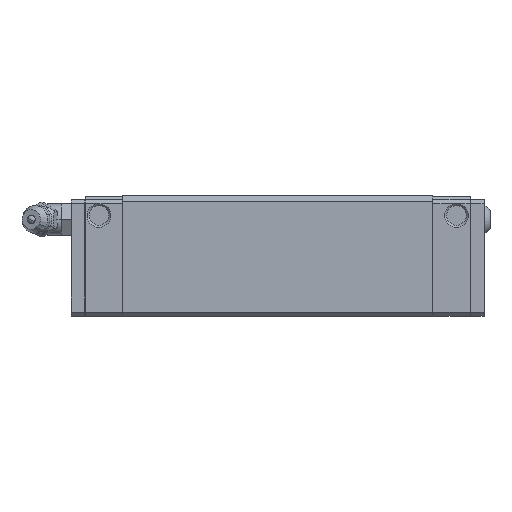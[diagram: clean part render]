
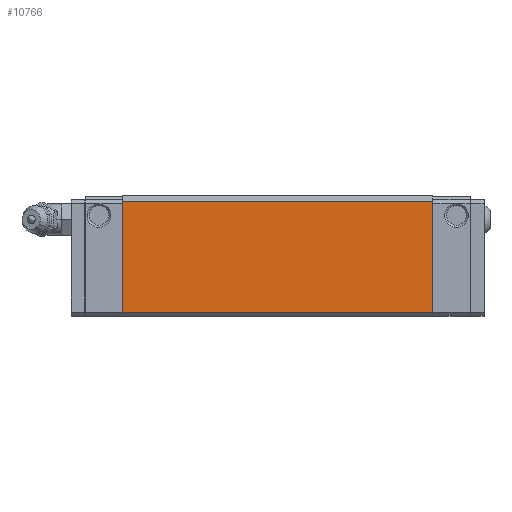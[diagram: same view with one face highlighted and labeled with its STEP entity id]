
A CAD part, top view. The second image highlights one B-rep face of the part: STEP entity #10766.
In plain terms, the highlighted planar face has unit normal (0, 0, 1).
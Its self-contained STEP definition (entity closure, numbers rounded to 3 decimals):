
#232 = EDGE_CURVE ( 'NONE', #8744, #2513, #13216, .T. ) ;
#569 = ORIENTED_EDGE ( 'NONE', *, *, #10243, .F. ) ;
#1481 = VECTOR ( 'NONE', #7482, 1000. ) ;
#1610 = CARTESIAN_POINT ( 'NONE',  ( 39.3, 12.5, 24. ) ) ;
#1717 = CARTESIAN_POINT ( 'NONE',  ( 39.3, -15.7, 24. ) ) ;
#2513 = VERTEX_POINT ( 'NONE', #1717 ) ;
#2717 = DIRECTION ( 'NONE',  ( 0., -1., 0. ) ) ;
#3879 = VECTOR ( 'NONE', #4600, 1000. ) ;
#3932 = PLANE ( 'NONE',  #7493 ) ;
#4108 = EDGE_LOOP ( 'NONE', ( #12555, #569, #12352, #8716 ) ) ;
#4230 = EDGE_CURVE ( 'NONE', #6592, #8744, #8647, .T. ) ;
#4600 = DIRECTION ( 'NONE',  ( 1., 0., 0. ) ) ;
#4877 = VECTOR ( 'NONE', #9230, 1000. ) ;
#4948 = DIRECTION ( 'NONE',  ( 0., 0., 1. ) ) ;
#5113 = CARTESIAN_POINT ( 'NONE',  ( 39.3, 12.5, 24. ) ) ;
#5177 = EDGE_CURVE ( 'NONE', #6592, #5587, #6408, .T. ) ;
#5211 = CARTESIAN_POINT ( 'NONE',  ( -39.3, -15.7, 24. ) ) ;
#5274 = CARTESIAN_POINT ( 'NONE',  ( -39.3, 12.5, 24. ) ) ;
#5587 = VERTEX_POINT ( 'NONE', #5211 ) ;
#6408 = LINE ( 'NONE', #10517, #1481 ) ;
#6592 = VERTEX_POINT ( 'NONE', #5274 ) ;
#7482 = DIRECTION ( 'NONE',  ( 0., -1., 0. ) ) ;
#7493 = AXIS2_PLACEMENT_3D ( 'NONE', #10061, #4948, #2717 ) ;
#8647 = LINE ( 'NONE', #10925, #3879 ) ;
#8716 = ORIENTED_EDGE ( 'NONE', *, *, #4230, .F. ) ;
#8744 = VERTEX_POINT ( 'NONE', #1610 ) ;
#9230 = DIRECTION ( 'NONE',  ( 0., -1., 0. ) ) ;
#10061 = CARTESIAN_POINT ( 'NONE',  ( -39.3, 9., 24. ) ) ;
#10162 = VECTOR ( 'NONE', #12788, 1000. ) ;
#10243 = EDGE_CURVE ( 'NONE', #2513, #5587, #12718, .T. ) ;
#10517 = CARTESIAN_POINT ( 'NONE',  ( -39.3, 12.5, 24. ) ) ;
#10766 = ADVANCED_FACE ( 'NONE', ( #11945 ), #3932, .T. ) ;
#10833 = CARTESIAN_POINT ( 'NONE',  ( 39.3, -15.7, 24. ) ) ;
#10925 = CARTESIAN_POINT ( 'NONE',  ( -39.3, 12.5, 24. ) ) ;
#11945 = FACE_OUTER_BOUND ( 'NONE', #4108, .T. ) ;
#12352 = ORIENTED_EDGE ( 'NONE', *, *, #232, .F. ) ;
#12555 = ORIENTED_EDGE ( 'NONE', *, *, #5177, .T. ) ;
#12718 = LINE ( 'NONE', #10833, #10162 ) ;
#12788 = DIRECTION ( 'NONE',  ( -1., 0., 0. ) ) ;
#13216 = LINE ( 'NONE', #5113, #4877 ) ;
